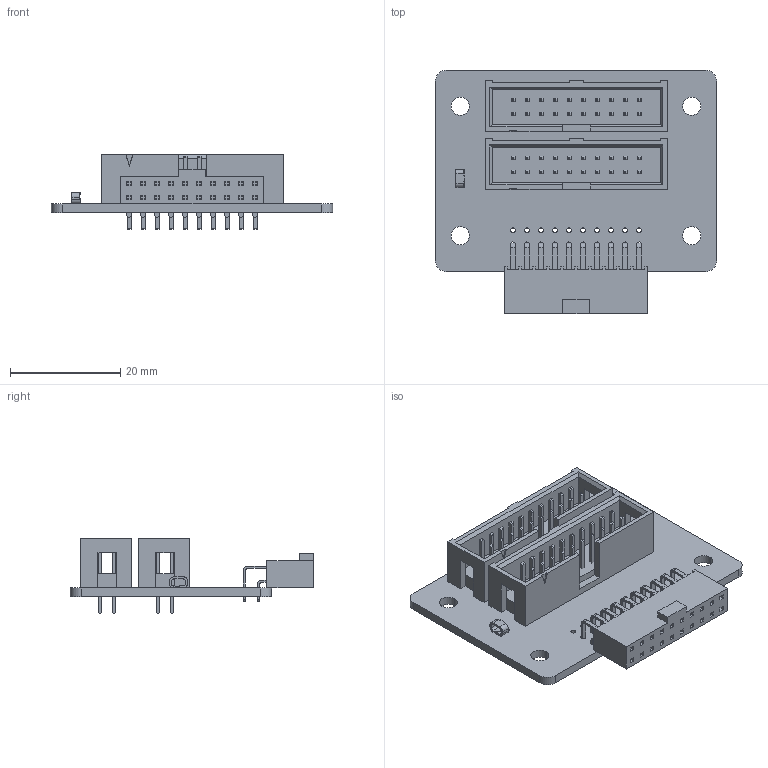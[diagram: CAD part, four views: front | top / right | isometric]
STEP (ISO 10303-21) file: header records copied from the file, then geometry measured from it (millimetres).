
FILE_DESCRIPTION (( 'STEP AP214' ), '1' );
FILE_NAME ('XJA0031.STEP', '2026-09-04T14:23:50', ( '' ), ( '' ), 'SwSTEP 2.0', 'SolidWorks 2025', '' );
FILE_SCHEMA (( 'AUTOMOTIVE_DESIGN' ));
Length unit declared in the file: millimetre
Products named in the file (15): TP2; Board; Board-Part-1; _TST-First_Position_Indicator; P2; SSW-110-02-G-D-RA-N; XJA0031; _TST-110-02-D_header; s1751-46; P1; _T-1S6-10-02-D; P2SSW-110-02-G-D-RA; T1SSW-110-02-G-D-RA-N; TST-110-02-G-D; P3
Assembly tree (15 placements, depth 4):
  XJA0031
    P3
      TST-110-02-G-D
        _T-1S6-10-02-D
        _TST-First_Position_Indicator
        _TST-110-02-D_header
    P2
      TST-110-02-G-D
        _T-1S6-10-02-D
        _TST-First_Position_Indicator
        _TST-110-02-D_header
    TP2
      s1751-46
    P1
      SSW-110-02-G-D-RA-N
        P2SSW-110-02-G-D-RA
        T1SSW-110-02-G-D-RA-N
    Board
      Board-Part-1
Bounding box: 51 x 44.14 x 13.46 mm (x, y, z)
Volume: 6751.2 mm3; surface area: 11268.5 mm2
Topology: 10 solids, 10 shells, 1436 faces, 4208 edges, 2796 vertices
Faces by surface type: plane 1242, cylinder 178, sphere 16
Entity records: 38130 total; most frequent: CARTESIAN_POINT 6695, ORIENTED_EDGE 6636, DIRECTION 6024, EDGE_CURVE 3318, VECTOR 2946, LINE 2946, VERTEX_POINT 2210, AXIS2_PLACEMENT_3D 1539
